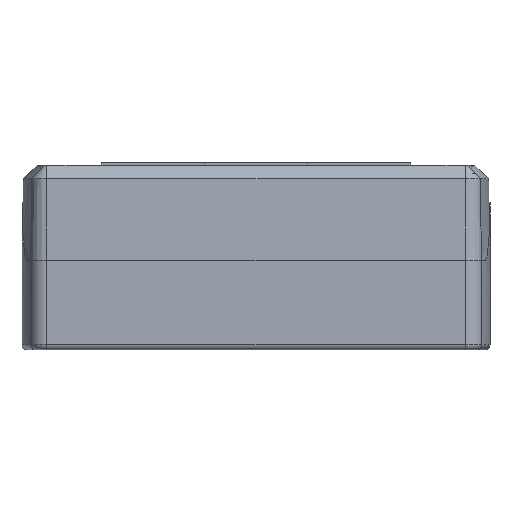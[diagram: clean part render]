
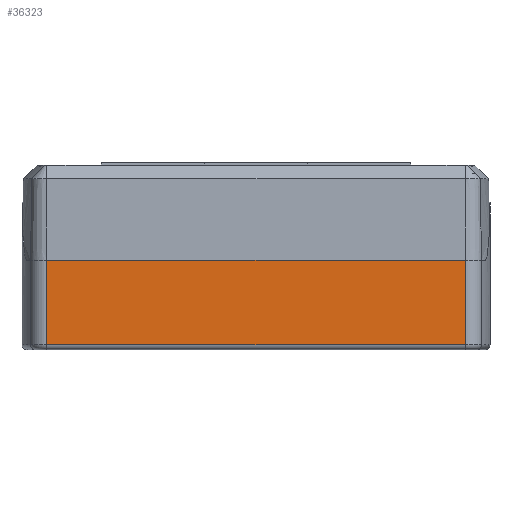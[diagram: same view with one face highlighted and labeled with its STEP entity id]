
A CAD part, front view. The second image highlights one B-rep face of the part: STEP entity #36323.
In plain terms, the highlighted planar face has unit normal (0, -1, 0).
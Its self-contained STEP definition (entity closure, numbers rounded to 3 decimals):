
#463 = ORIENTED_EDGE ( 'NONE', *, *, #27921, .T. ) ;
#1778 = FACE_OUTER_BOUND ( 'NONE', #4290, .T. ) ;
#2166 = PLANE ( 'NONE',  #17119 ) ;
#2249 = ORIENTED_EDGE ( 'NONE', *, *, #32797, .F. ) ;
#2666 = CARTESIAN_POINT ( 'NONE',  ( -60.075, -35.126, -29.326 ) ) ;
#4028 = CARTESIAN_POINT ( 'NONE',  ( 61.564, -35.126, -27.826 ) ) ;
#4290 = EDGE_LOOP ( 'NONE', ( #22050, #463, #24645, #2249 ) ) ;
#5576 = CARTESIAN_POINT ( 'NONE',  ( 61.564, -35.126, -3.326 ) ) ;
#7948 = LINE ( 'NONE', #2666, #42349 ) ;
#9450 = VERTEX_POINT ( 'NONE', #4028 ) ;
#11889 = VECTOR ( 'NONE', #28017, 1000. ) ;
#13254 = VERTEX_POINT ( 'NONE', #41142 ) ;
#16472 = VECTOR ( 'NONE', #28850, 1000. ) ;
#17119 = AXIS2_PLACEMENT_3D ( 'NONE', #32399, #17753, #40002 ) ;
#17753 = DIRECTION ( 'NONE',  ( 0., -1., 0. ) ) ;
#18536 = EDGE_CURVE ( 'NONE', #21643, #9450, #26096, .T. ) ;
#21643 = VERTEX_POINT ( 'NONE', #5576 ) ;
#22050 = ORIENTED_EDGE ( 'NONE', *, *, #29066, .F. ) ;
#24361 = VERTEX_POINT ( 'NONE', #30362 ) ;
#24645 = ORIENTED_EDGE ( 'NONE', *, *, #18536, .F. ) ;
#25055 = DIRECTION ( 'NONE',  ( 0., 0., 1. ) ) ;
#26096 = LINE ( 'NONE', #28520, #11889 ) ;
#27921 = EDGE_CURVE ( 'NONE', #24361, #9450, #29257, .T. ) ;
#28017 = DIRECTION ( 'NONE',  ( 0., 0., -1. ) ) ;
#28520 = CARTESIAN_POINT ( 'NONE',  ( 61.564, -35.126, -29.326 ) ) ;
#28850 = DIRECTION ( 'NONE',  ( 1., 0., 0. ) ) ;
#29066 = EDGE_CURVE ( 'NONE', #24361, #13254, #7948, .T. ) ;
#29257 = LINE ( 'NONE', #40521, #35808 ) ;
#29403 = DIRECTION ( 'NONE',  ( 1., 0., 0. ) ) ;
#30362 = CARTESIAN_POINT ( 'NONE',  ( -60.075, -35.126, -27.826 ) ) ;
#32399 = CARTESIAN_POINT ( 'NONE',  ( -60.075, -35.126, -29.326 ) ) ;
#32797 = EDGE_CURVE ( 'NONE', #13254, #21643, #47943, .T. ) ;
#35808 = VECTOR ( 'NONE', #29403, 1000. ) ;
#36323 = ADVANCED_FACE ( 'NONE', ( #1778 ), #2166, .T. ) ;
#40002 = DIRECTION ( 'NONE',  ( 0., 0., -1. ) ) ;
#40521 = CARTESIAN_POINT ( 'NONE',  ( 61.564, -35.126, -27.826 ) ) ;
#41142 = CARTESIAN_POINT ( 'NONE',  ( -60.075, -35.126, -3.326 ) ) ;
#42349 = VECTOR ( 'NONE', #25055, 1000. ) ;
#44089 = CARTESIAN_POINT ( 'NONE',  ( -60.075, -35.126, -3.326 ) ) ;
#47943 = LINE ( 'NONE', #44089, #16472 ) ;
